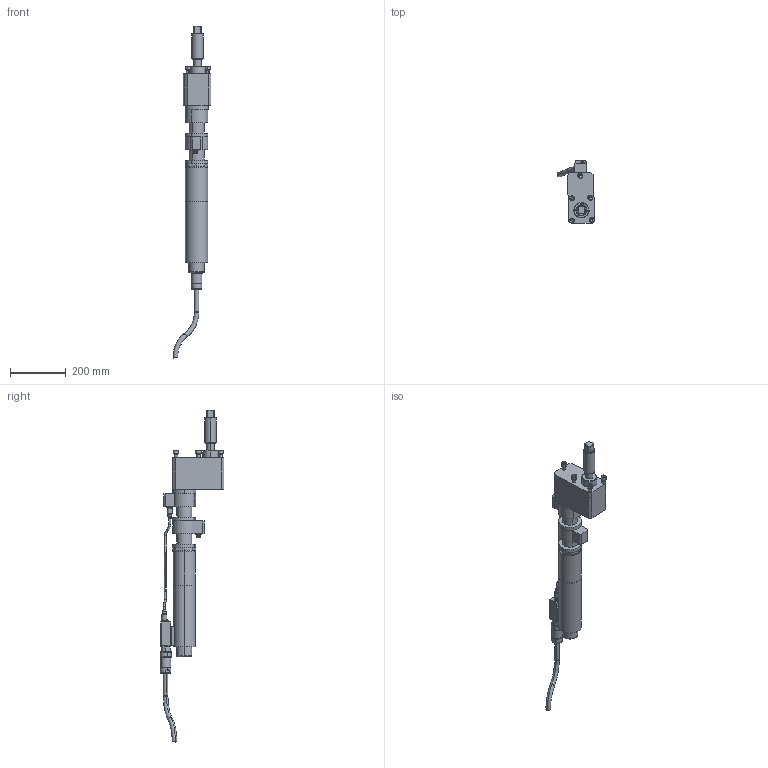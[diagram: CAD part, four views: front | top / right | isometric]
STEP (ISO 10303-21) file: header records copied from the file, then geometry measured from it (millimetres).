
FILE_DESCRIPTION(('CATIA V5 STEP'),'2;1');
FILE_NAME('O:\3D-Schrauber\stp\7920585_ECR344_DWR450_DR450_AO3425_AllCATPart.stp','2010-05-05T11:15:12+00:00',('none'),('none'),'CATIA Version 5 Release 19 SP 3 (IN-10)','CATIA V5 STEP AP214','none');
FILE_SCHEMA(('AUTOMOTIVE_DESIGN { 1 0 10303 214 1 1 1 1 }'));
Length unit declared in the file: millimetre
Products named in the file (1): 7920585_ECR344_DWR450_DR450_AO3425_AllCATPart
Bounding box: 134.88 x 229.1 x 1191.16 mm (x, y, z)
Volume: 5480349 mm3; surface area: 433749.5 mm2
Topology: 23 solids, 23 shells, 523 faces, 1138 edges, 720 vertices
Faces by surface type: plane 218, cylinder 189, cone 72, torus 44
Entity records: 13651 total; most frequent: CARTESIAN_POINT 2686, ORIENTED_EDGE 2276, DIRECTION 1888, EDGE_CURVE 1138, AXIS2_PLACEMENT_3D 950, VERTEX_POINT 720, EDGE_LOOP 582, CIRCLE 546
